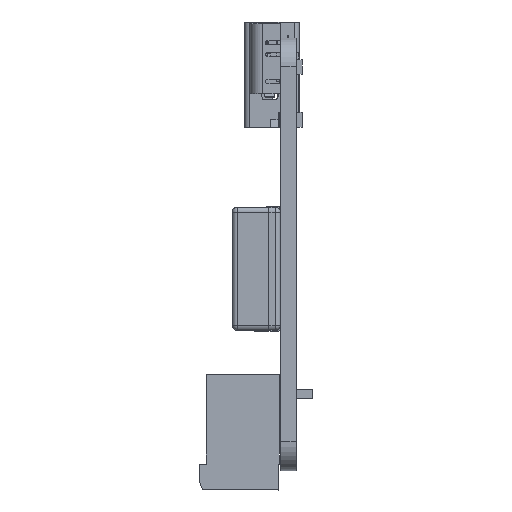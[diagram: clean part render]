
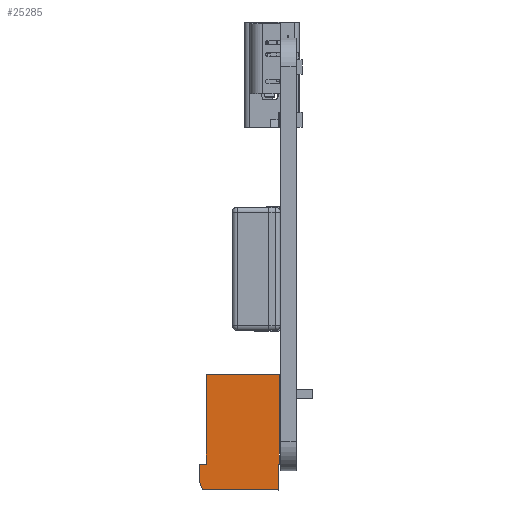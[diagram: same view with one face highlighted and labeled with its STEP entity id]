
A CAD part, left-side view. The second image highlights one B-rep face of the part: STEP entity #25285.
In plain terms, the highlighted planar face has unit normal (-1, 0, 0) as drawn and (1, 0, 0) by its records, which use the part's own axes.
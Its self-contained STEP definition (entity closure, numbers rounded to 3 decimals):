
#3078=FACE_OUTER_BOUND('',#4502,.T.);
#4502=EDGE_LOOP('',(#22883,#22884,#22885,#22886,#22887,#22888,#22889,#22890,
#22891));
#7158=LINE('',#43201,#9982);
#7168=LINE('',#43221,#9992);
#7176=LINE('',#43235,#10000);
#7232=LINE('',#43372,#10056);
#7240=LINE('',#43388,#10064);
#7250=LINE('',#43408,#10074);
#7268=LINE('',#43441,#10092);
#7272=LINE('',#43452,#10096);
#7273=LINE('',#43453,#10097);
#9982=VECTOR('',#33513,1.);
#9992=VECTOR('',#33531,1.);
#10000=VECTOR('',#33545,1.);
#10056=VECTOR('',#33687,1.);
#10064=VECTOR('',#33697,1.);
#10074=VECTOR('',#33711,1.);
#10092=VECTOR('',#33735,1.);
#10096=VECTOR('',#33751,1.);
#10097=VECTOR('',#33752,1.);
#12359=VERTEX_POINT('',#43198);
#12360=VERTEX_POINT('',#43200);
#12366=VERTEX_POINT('',#43220);
#12369=VERTEX_POINT('',#43234);
#12407=VERTEX_POINT('',#43371);
#12414=VERTEX_POINT('',#43387);
#12421=VERTEX_POINT('',#43405);
#12422=VERTEX_POINT('',#43407);
#12435=VERTEX_POINT('',#43451);
#15813=EDGE_CURVE('',#12360,#12359,#7158,.T.);
#15823=EDGE_CURVE('',#12366,#12360,#7168,.T.);
#15831=EDGE_CURVE('',#12369,#12366,#7176,.T.);
#15897=EDGE_CURVE('',#12407,#12369,#7232,.T.);
#15905=EDGE_CURVE('',#12414,#12407,#7240,.T.);
#15915=EDGE_CURVE('',#12422,#12421,#7250,.T.);
#15933=EDGE_CURVE('',#12421,#12414,#7268,.T.);
#15937=EDGE_CURVE('',#12359,#12435,#7272,.T.);
#15938=EDGE_CURVE('',#12435,#12422,#7273,.T.);
#22883=ORIENTED_EDGE('',*,*,#15813,.T.);
#22884=ORIENTED_EDGE('',*,*,#15937,.T.);
#22885=ORIENTED_EDGE('',*,*,#15938,.T.);
#22886=ORIENTED_EDGE('',*,*,#15915,.T.);
#22887=ORIENTED_EDGE('',*,*,#15933,.T.);
#22888=ORIENTED_EDGE('',*,*,#15905,.T.);
#22889=ORIENTED_EDGE('',*,*,#15897,.T.);
#22890=ORIENTED_EDGE('',*,*,#15831,.T.);
#22891=ORIENTED_EDGE('',*,*,#15823,.T.);
#24018=PLANE('',#27303);
#25285=ADVANCED_FACE('',(#3078),#24018,.T.);
#27303=AXIS2_PLACEMENT_3D('',#43450,#33749,#33750);
#33513=DIRECTION('',(0.,-1.,0.));
#33531=DIRECTION('',(0.,-0.33,0.944));
#33545=DIRECTION('',(0.,0.,1.));
#33687=DIRECTION('',(0.,1.,0.));
#33697=DIRECTION('',(0.,0.,1.));
#33711=DIRECTION('',(0.,0.,-1.));
#33735=DIRECTION('',(0.,1.,0.));
#33749=DIRECTION('center_axis',(1.,0.,0.));
#33750=DIRECTION('ref_axis',(0.,0.,-1.));
#33751=DIRECTION('',(0.,0.,-1.));
#33752=DIRECTION('',(0.,-1.,0.));
#43198=CARTESIAN_POINT('',(5.99,-3.78,0.));
#43200=CARTESIAN_POINT('',(5.99,4.15,0.));
#43201=CARTESIAN_POINT('',(5.99,4.15,0.));
#43220=CARTESIAN_POINT('',(5.99,4.5,-1.));
#43221=CARTESIAN_POINT('',(5.99,4.5,-1.));
#43234=CARTESIAN_POINT('',(5.99,4.5,-2.7));
#43235=CARTESIAN_POINT('',(5.99,4.5,-2.7));
#43371=CARTESIAN_POINT('',(5.99,3.75,-2.7));
#43372=CARTESIAN_POINT('',(5.99,3.75,-2.7));
#43387=CARTESIAN_POINT('',(5.99,3.75,-12.));
#43388=CARTESIAN_POINT('',(5.99,3.75,-12.));
#43405=CARTESIAN_POINT('',(5.99,-3.85,-12.));
#43407=CARTESIAN_POINT('',(5.99,-3.85,-2.7));
#43408=CARTESIAN_POINT('',(5.99,-3.85,-2.7));
#43441=CARTESIAN_POINT('',(5.99,-3.85,-12.));
#43450=CARTESIAN_POINT('Origin',(5.99,0.,0.));
#43451=CARTESIAN_POINT('',(5.99,-3.78,-2.7));
#43452=CARTESIAN_POINT('',(5.99,-3.78,0.));
#43453=CARTESIAN_POINT('',(5.99,-3.78,-2.7));
